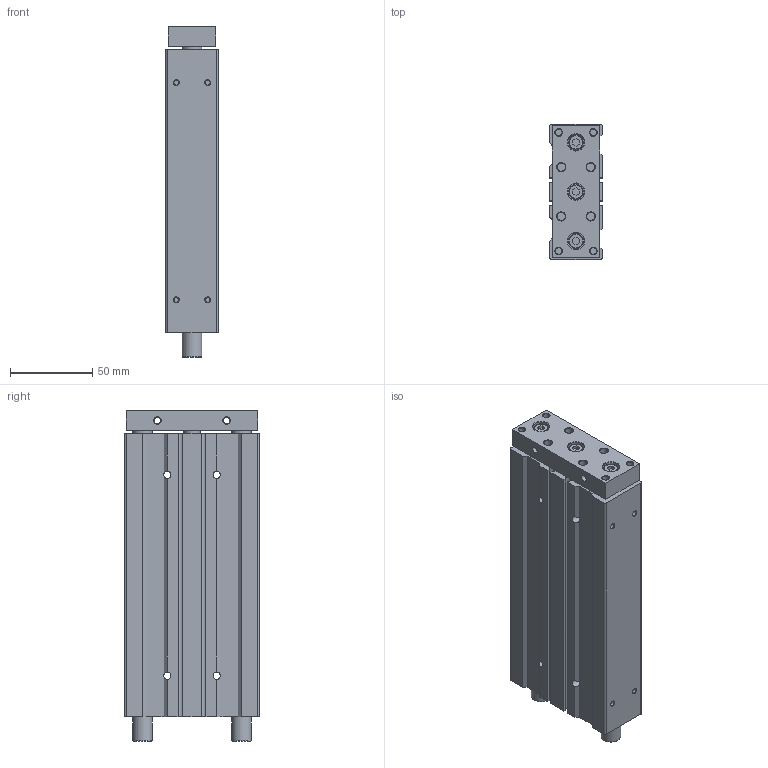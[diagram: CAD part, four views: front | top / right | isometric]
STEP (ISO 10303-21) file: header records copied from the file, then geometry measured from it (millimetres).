
FILE_DESCRIPTION((''),'2;1');
FILE_NAME('I:\3D電子目錄\氣缸\TB(U)\TB(U)20\TB(U)20\TB(U)20x125.stp','2007-08-06T08:21:42',('Administrator'),(''),'Autodesk Inventor 2008','Autodesk Inventor 2008','');
FILE_SCHEMA(('AUTOMOTIVE_DESIGN { 1 0 10303 214 1 1 1 1 }'));
Length unit declared in the file: millimetre
Products named in the file (1): TB(U)20X125
Bounding box: 32 x 82 x 200.9 mm (x, y, z)
Volume: 446519 mm3; surface area: 66418.5 mm2
Topology: 1 solids, 1 shells, 188 faces, 424 edges, 268 vertices
Faces by surface type: plane 90, cylinder 50, cone 37, bspline 8, torus 3
Full cylindrical faces by diameter (mm): 3 x4, 4 x6, 4.4 x4, 5 x10, 8 x4, 9 x3, 10 x4, 12 x4, 19 x2, 22 x1
Entity records: 4948 total; most frequent: CARTESIAN_POINT 875, DIRECTION 860, ORIENTED_EDGE 676, AXIS2_PLACEMENT_3D 341, EDGE_CURVE 338, EDGE_LOOP 336, VERTEX_POINT 268, FACE_OUTER_BOUND 188
